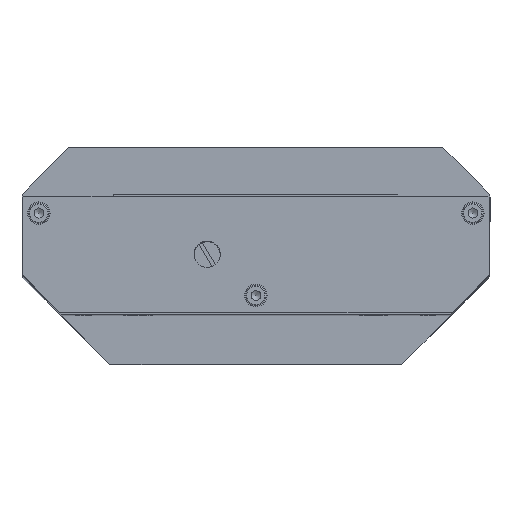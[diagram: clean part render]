
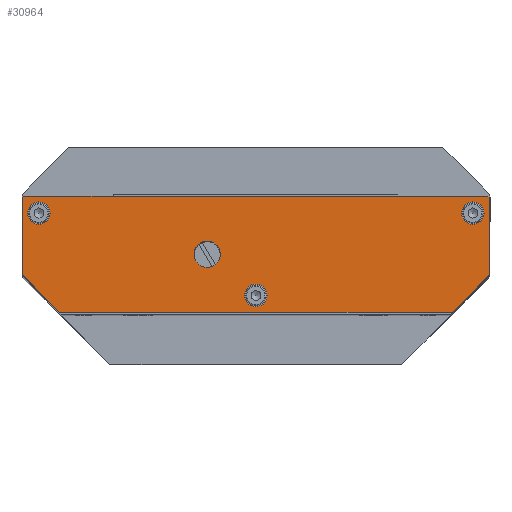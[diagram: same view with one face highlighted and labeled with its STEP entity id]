
A CAD part, top view. The second image highlights one B-rep face of the part: STEP entity #30964.
In plain terms, the highlighted planar face has unit normal (0, 0, 1).
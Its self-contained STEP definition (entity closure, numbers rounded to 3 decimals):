
#30849=CARTESIAN_POINT('',(62.5,-14.757,9.0));
#30850=DIRECTION('',(0.0,0.0,1.0));
#30851=DIRECTION('',(1.0,0.0,0.0));
#30852=AXIS2_PLACEMENT_3D('',#30849,#30850,#30851);
#30853=PLANE('',#30852);
#30854=CARTESIAN_POINT('',(124.5,0.0,9.0));
#30855=VERTEX_POINT('',#30854);
#30856=CARTESIAN_POINT('',(125.0,-0.5,9.0));
#30857=VERTEX_POINT('',#30856);
#30858=CARTESIAN_POINT('',(124.5,0.0,9.0));
#30859=DIRECTION('',(0.707,-0.707,0.0));
#30860=VECTOR('',#30859,0.707);
#30861=LINE('',#30858,#30860);
#30862=EDGE_CURVE('',#30855,#30857,#30861,.T.);
#30863=ORIENTED_EDGE('',*,*,#30862,.F.);
#30864=CARTESIAN_POINT('',(0.5,0.0,9.0));
#30865=VERTEX_POINT('',#30864);
#30866=CARTESIAN_POINT('',(0.5,0.0,9.0));
#30867=DIRECTION('',(1.0,0.0,0.0));
#30868=VECTOR('',#30867,124.0);
#30869=LINE('',#30866,#30868);
#30870=EDGE_CURVE('',#30865,#30855,#30869,.T.);
#30871=ORIENTED_EDGE('',*,*,#30870,.F.);
#30872=CARTESIAN_POINT('',(0.,-0.5,9.0));
#30873=VERTEX_POINT('',#30872);
#30874=CARTESIAN_POINT('',(0.,-0.5,9.0));
#30875=DIRECTION('',(0.707,0.707,0.0));
#30876=VECTOR('',#30875,0.707);
#30877=LINE('',#30874,#30876);
#30878=EDGE_CURVE('',#30873,#30865,#30877,.T.);
#30879=ORIENTED_EDGE('',*,*,#30878,.F.);
#30880=CARTESIAN_POINT('',(0.,-21.0,9.0));
#30881=VERTEX_POINT('',#30880);
#30882=CARTESIAN_POINT('',(0.,-21.0,9.0));
#30883=DIRECTION('',(0.0,1.0,0.0));
#30884=VECTOR('',#30883,20.5);
#30885=LINE('',#30882,#30884);
#30886=EDGE_CURVE('',#30881,#30873,#30885,.T.);
#30887=ORIENTED_EDGE('',*,*,#30886,.F.);
#30888=CARTESIAN_POINT('',(10.,-31.0,9.0));
#30889=VERTEX_POINT('',#30888);
#30890=CARTESIAN_POINT('',(10.,-31.0,9.0));
#30891=DIRECTION('',(-0.707,0.707,0.0));
#30892=VECTOR('',#30891,14.142);
#30893=LINE('',#30890,#30892);
#30894=EDGE_CURVE('',#30889,#30881,#30893,.T.);
#30895=ORIENTED_EDGE('',*,*,#30894,.F.);
#30896=CARTESIAN_POINT('',(115.,-31.0,9.0));
#30897=VERTEX_POINT('',#30896);
#30898=CARTESIAN_POINT('',(115.,-31.0,9.0));
#30899=DIRECTION('',(-1.0,0.0,0.0));
#30900=VECTOR('',#30899,105.);
#30901=LINE('',#30898,#30900);
#30902=EDGE_CURVE('',#30897,#30889,#30901,.T.);
#30903=ORIENTED_EDGE('',*,*,#30902,.F.);
#30904=CARTESIAN_POINT('',(125.,-21.0,9.0));
#30905=VERTEX_POINT('',#30904);
#30906=CARTESIAN_POINT('',(125.,-21.0,9.0));
#30907=DIRECTION('',(-0.707,-0.707,0.0));
#30908=VECTOR('',#30907,14.142);
#30909=LINE('',#30906,#30908);
#30910=EDGE_CURVE('',#30905,#30897,#30909,.T.);
#30911=ORIENTED_EDGE('',*,*,#30910,.F.);
#30912=CARTESIAN_POINT('',(125.0,-0.5,9.0));
#30913=DIRECTION('',(0.0,-1.0,0.0));
#30914=VECTOR('',#30913,20.5);
#30915=LINE('',#30912,#30914);
#30916=EDGE_CURVE('',#30857,#30905,#30915,.T.);
#30917=ORIENTED_EDGE('',*,*,#30916,.F.);
#30918=EDGE_LOOP('',(#30863,#30871,#30879,#30887,#30895,#30903,#30911,#30917));
#30919=FACE_OUTER_BOUND('',#30918,.T.);
#30920=CARTESIAN_POINT('',(53.0,-15.5,9.));
#30921=VERTEX_POINT('',#30920);
#30922=CARTESIAN_POINT('',(49.5,-15.5,9.));
#30923=DIRECTION('',(0.0,0.0,-1.0));
#30924=DIRECTION('',(-1.0,0.0,0.0));
#30925=AXIS2_PLACEMENT_3D('',#30922,#30923,#30924);
#30926=CIRCLE('',#30925,3.5);
#30927=EDGE_CURVE('',#30921,#30921,#30926,.T.);
#30928=ORIENTED_EDGE('',*,*,#30927,.T.);
#30929=EDGE_LOOP('',(#30928));
#30930=FACE_BOUND('',#30929,.T.);
#30931=CARTESIAN_POINT('',(65.5,-26.5,9.0));
#30932=VERTEX_POINT('',#30931);
#30933=CARTESIAN_POINT('',(62.5,-26.5,9.0));
#30934=DIRECTION('',(0.0,0.0,-1.0));
#30935=DIRECTION('',(1.0,0.0,0.0));
#30936=AXIS2_PLACEMENT_3D('',#30933,#30934,#30935);
#30937=CIRCLE('',#30936,3.);
#30938=EDGE_CURVE('',#30932,#30932,#30937,.T.);
#30939=ORIENTED_EDGE('',*,*,#30938,.T.);
#30940=EDGE_LOOP('',(#30939));
#30941=FACE_BOUND('',#30940,.T.);
#30942=CARTESIAN_POINT('',(123.5,-4.5,9.0));
#30943=VERTEX_POINT('',#30942);
#30944=CARTESIAN_POINT('',(120.5,-4.5,9.0));
#30945=DIRECTION('',(0.0,0.0,-1.0));
#30946=DIRECTION('',(1.0,0.0,0.0));
#30947=AXIS2_PLACEMENT_3D('',#30944,#30945,#30946);
#30948=CIRCLE('',#30947,3.);
#30949=EDGE_CURVE('',#30943,#30943,#30948,.T.);
#30950=ORIENTED_EDGE('',*,*,#30949,.T.);
#30951=EDGE_LOOP('',(#30950));
#30952=FACE_BOUND('',#30951,.T.);
#30953=CARTESIAN_POINT('',(7.5,-4.5,9.0));
#30954=VERTEX_POINT('',#30953);
#30955=CARTESIAN_POINT('',(4.5,-4.5,9.0));
#30956=DIRECTION('',(0.0,0.0,-1.0));
#30957=DIRECTION('',(1.0,0.0,0.0));
#30958=AXIS2_PLACEMENT_3D('',#30955,#30956,#30957);
#30959=CIRCLE('',#30958,3.);
#30960=EDGE_CURVE('',#30954,#30954,#30959,.T.);
#30961=ORIENTED_EDGE('',*,*,#30960,.T.);
#30962=EDGE_LOOP('',(#30961));
#30963=FACE_BOUND('',#30962,.T.);
#30964=ADVANCED_FACE('',(#30919,#30930,#30941,#30952,#30963),#30853,.T.);
